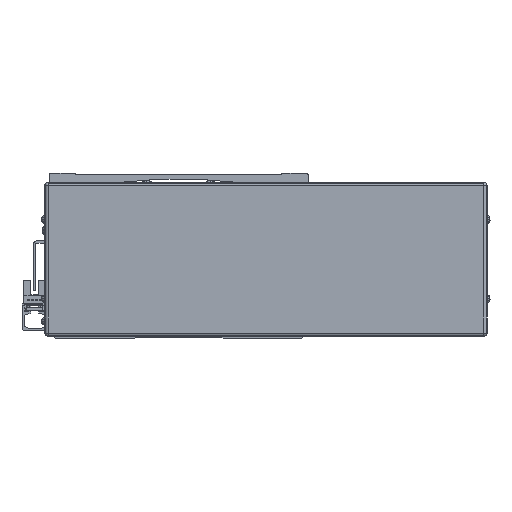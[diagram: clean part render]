
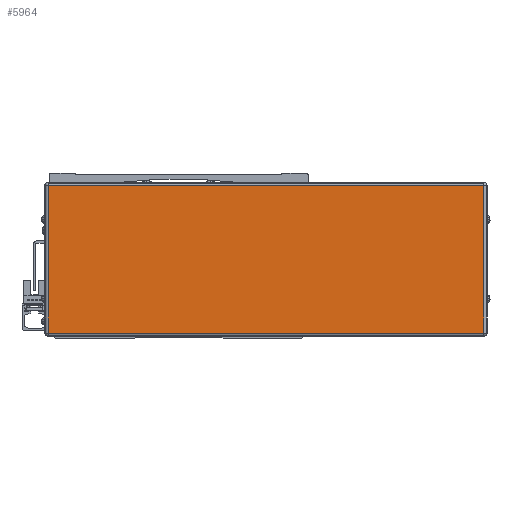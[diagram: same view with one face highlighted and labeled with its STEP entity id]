
A CAD part, front view. The second image highlights one B-rep face of the part: STEP entity #5964.
In plain terms, the highlighted planar face has unit normal (0, -1, 0).
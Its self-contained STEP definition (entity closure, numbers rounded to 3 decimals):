
#5964=ADVANCED_FACE('',(#12867),#12868,.T.);
#12867=FACE_OUTER_BOUND('',#21964,.T.);
#12868=PLANE('',#21965);
#21964=EDGE_LOOP('',(#40513,#40514,#40515,#40516));
#21965=AXIS2_PLACEMENT_3D('',#40517,#40518,#40519);
#40513=ORIENTED_EDGE('',*,*,#54649,.F.);
#40514=ORIENTED_EDGE('',*,*,#56201,.F.);
#40515=ORIENTED_EDGE('',*,*,#54512,.F.);
#40516=ORIENTED_EDGE('',*,*,#52543,.F.);
#40517=CARTESIAN_POINT('',(-545.,52.222,-2.));
#40518=DIRECTION('',(0.,-1.0,0.));
#40519=DIRECTION('',(1.0,0.,0.));
#52543=EDGE_CURVE('',#64138,#64140,#64141,.T.);
#54512=EDGE_CURVE('',#64140,#66608,#67085,.T.);
#54649=EDGE_CURVE('',#66618,#64138,#67276,.T.);
#56201=EDGE_CURVE('',#66608,#66618,#69328,.T.);
#64138=VERTEX_POINT('',#80255);
#64140=VERTEX_POINT('',#80257);
#64141=LINE('',#80258,#80259);
#66608=VERTEX_POINT('',#83929);
#66618=VERTEX_POINT('',#83939);
#67085=LINE('',#84615,#84616);
#67276=LINE('',#84890,#84891);
#69328=LINE('',#88188,#88189);
#80255=CARTESIAN_POINT('',(-407.9,52.222,44.5));
#80257=CARTESIAN_POINT('',(-407.9,52.222,-48.5));
#80258=CARTESIAN_POINT('',(-407.9,52.222,-2.));
#80259=VECTOR('',#95504,10.0);
#83929=CARTESIAN_POINT('',(-682.1,52.222,-48.5));
#83939=CARTESIAN_POINT('',(-682.1,52.222,44.5));
#84615=CARTESIAN_POINT('',(-545.,52.222,-48.5));
#84616=VECTOR('',#97900,10.0);
#84890=CARTESIAN_POINT('',(-545.,52.222,44.5));
#84891=VECTOR('',#98051,10.0);
#88188=CARTESIAN_POINT('',(-682.1,52.222,-2.));
#88189=VECTOR('',#99652,10.0);
#95504=DIRECTION('',(0.,0.,-1.0));
#97900=DIRECTION('',(-1.0,0.,0.));
#98051=DIRECTION('',(1.0,0.,0.));
#99652=DIRECTION('',(0.,0.,1.0));
